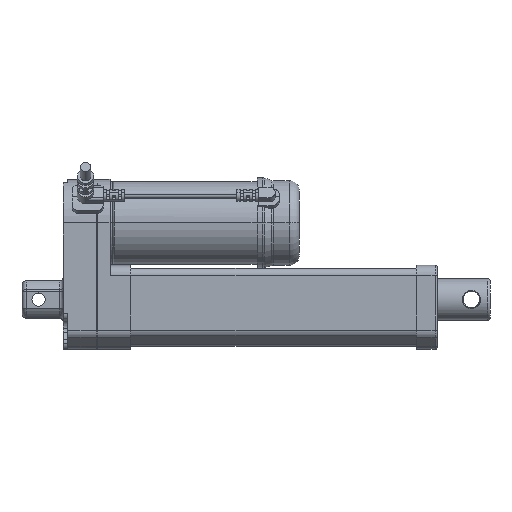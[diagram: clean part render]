
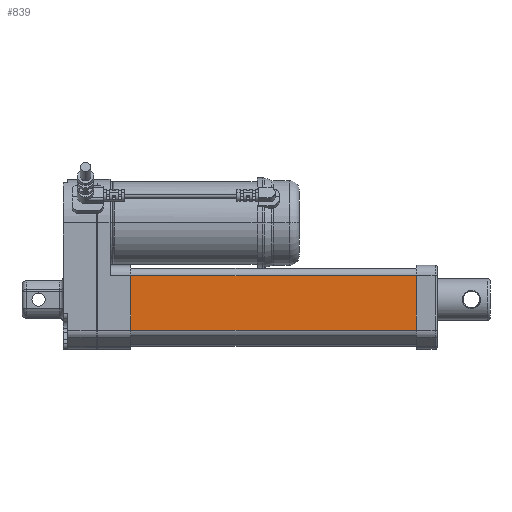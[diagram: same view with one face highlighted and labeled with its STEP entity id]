
A CAD part, top view. The second image highlights one B-rep face of the part: STEP entity #839.
In plain terms, the highlighted planar face has unit normal (0, 0, 1).
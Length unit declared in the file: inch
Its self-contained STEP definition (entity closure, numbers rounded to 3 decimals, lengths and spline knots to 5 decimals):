
#839=ADVANCED_FACE('',(#1980),#1981,.T.);
#1980=FACE_OUTER_BOUND('',#3511,.T.);
#1981=PLANE('',#3512);
#3511=EDGE_LOOP('',(#6053,#6054,#6055,#6056));
#3512=AXIS2_PLACEMENT_3D('',#6057,#6058,#6059);
#6053=ORIENTED_EDGE('',*,*,#9734,.F.);
#6054=ORIENTED_EDGE('',*,*,#9735,.F.);
#6055=ORIENTED_EDGE('',*,*,#9736,.T.);
#6056=ORIENTED_EDGE('',*,*,#9737,.T.);
#6057=CARTESIAN_POINT('',(6.7126,-0.5801,0.76772));
#6058=DIRECTION('',(0.0,-0.0,1.0));
#6059=DIRECTION('',(0.0,1.0,0.0));
#9734=EDGE_CURVE('',#12001,#12002,#12003,.T.);
#9735=EDGE_CURVE('',#12004,#12001,#12005,.T.);
#9736=EDGE_CURVE('',#12004,#12006,#12007,.T.);
#9737=EDGE_CURVE('',#12006,#12002,#12008,.T.);
#12001=VERTEX_POINT('',#15073);
#12002=VERTEX_POINT('',#15074);
#12003=LINE('',#15075,#15076);
#12004=VERTEX_POINT('',#15077);
#12005=LINE('',#15078,#15079);
#12006=VERTEX_POINT('',#15080);
#12007=LINE('',#15081,#15082);
#12008=LINE('',#15083,#15084);
#15073=CARTESIAN_POINT('',(1.27953,-0.5801,0.76772));
#15074=CARTESIAN_POINT('',(1.27953,0.45276,0.76772));
#15075=CARTESIAN_POINT('',(1.27953,0.45276,0.76772));
#15076=VECTOR('',#17867,39.37008);
#15077=CARTESIAN_POINT('',(6.7126,-0.5801,0.76772));
#15078=CARTESIAN_POINT('',(6.7126,-0.5801,0.76772));
#15079=VECTOR('',#17868,39.37008);
#15080=CARTESIAN_POINT('',(6.7126,0.45276,0.76772));
#15081=CARTESIAN_POINT('',(6.7126,-0.5801,0.76772));
#15082=VECTOR('',#17869,39.37008);
#15083=CARTESIAN_POINT('',(6.7126,0.45276,0.76772));
#15084=VECTOR('',#17870,39.37008);
#17867=DIRECTION('',(0.0,1.0,0.0));
#17868=DIRECTION('',(-1.0,0.0,0.0));
#17869=DIRECTION('',(0.0,1.0,0.0));
#17870=DIRECTION('',(-1.0,0.0,0.0));
